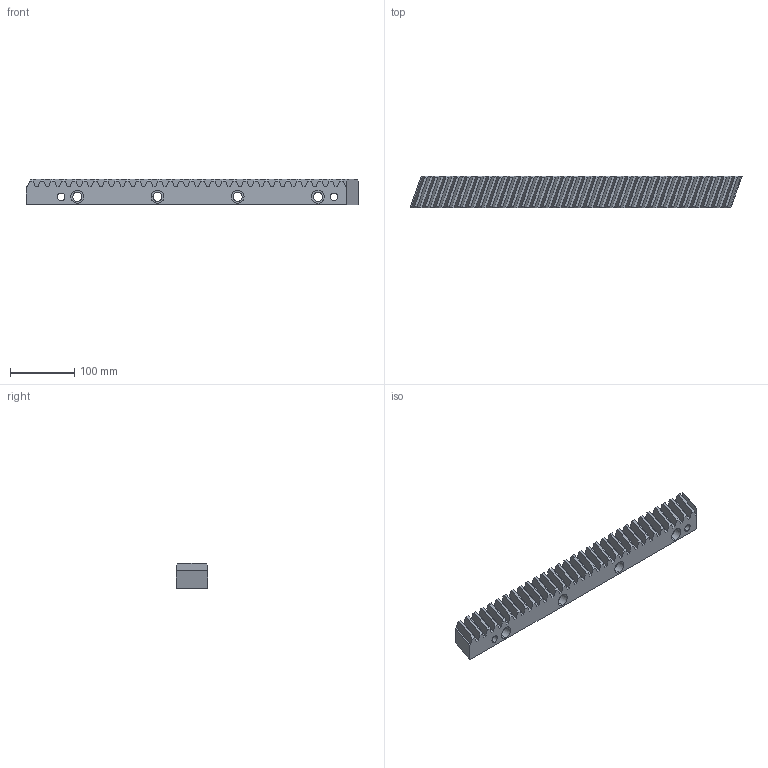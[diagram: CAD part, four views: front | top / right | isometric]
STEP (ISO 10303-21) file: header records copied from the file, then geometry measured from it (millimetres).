
FILE_DESCRIPTION (( 'STEP AP203' ), '1' );
FILE_NAME ('FX3 33 161 161.STEP', '2023-04-06T06:26:07', ( '' ), ( '' ), 'SwSTEP 2.0', 'SolidWorks 2010', '' );
FILE_SCHEMA (( 'CONFIG_CONTROL_DESIGN' ));
Length unit declared in the file: millimetre
Products named in the file (1): FX3 33 161 161
Bounding box: 517.35 x 49 x 39 mm (x, y, z)
Volume: 767323.4 mm3; surface area: 122264.6 mm2
Topology: 1 solids, 1 shells, 1197 faces, 3324 edges, 2216 vertices
Faces by surface type: plane 807, bspline 370, cylinder 20
Entity records: 64475 total; most frequent: CARTESIAN_POINT 36204, ORIENTED_EDGE 6648, DIRECTION 4280, EDGE_CURVE 3324, LINE 2544, VECTOR 2544, VERTEX_POINT 2216, EDGE_LOOP 1296
